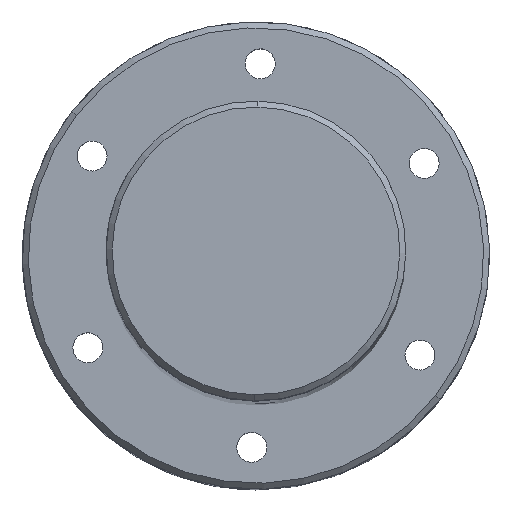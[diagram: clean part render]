
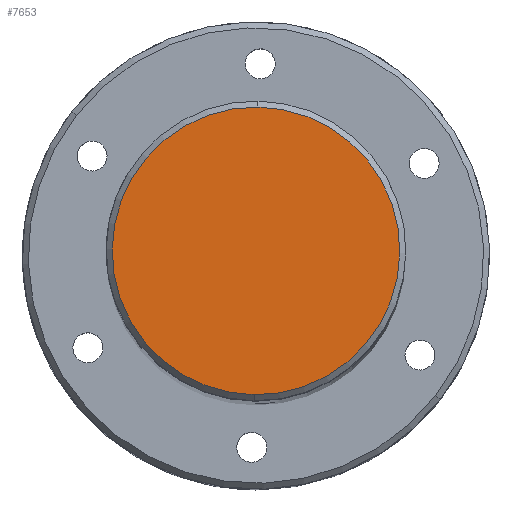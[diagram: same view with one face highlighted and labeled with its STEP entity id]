
A CAD part, top view. The second image highlights one B-rep face of the part: STEP entity #7653.
In plain terms, the highlighted planar face has unit normal (0, 0, 1) as drawn and (-1, 0, 0) by its records, which use the part's own axes.
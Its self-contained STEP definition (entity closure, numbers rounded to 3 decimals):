
#805 = DIRECTION ( 'NONE',  ( 0., 0., -1. ) ) ;
#2730 = VERTEX_POINT ( 'NONE', #13775 ) ;
#3217 = CARTESIAN_POINT ( 'NONE',  ( 0., 0., -24. ) ) ;
#4943 = CARTESIAN_POINT ( 'NONE',  ( 0., 0., 0. ) ) ;
#5156 = CARTESIAN_POINT ( 'NONE',  ( 0., 0., 0. ) ) ;
#5300 = ORIENTED_EDGE ( 'NONE', *, *, #20288, .T. ) ;
#6937 = DIRECTION ( 'NONE',  ( -1., 0., 0. ) ) ;
#7653 = ADVANCED_FACE ( 'NONE', ( #15000 ), #10002, .F. ) ;
#7755 = CARTESIAN_POINT ( 'NONE',  ( 0., 0., 0. ) ) ;
#7966 = AXIS2_PLACEMENT_3D ( 'NONE', #4943, #11933, #10066 ) ;
#9640 = EDGE_CURVE ( 'NONE', #19281, #2730, #11775, .T. ) ;
#10002 = PLANE ( 'NONE',  #7966 ) ;
#10066 = DIRECTION ( 'NONE',  ( 0., 0., -1. ) ) ;
#10853 = ORIENTED_EDGE ( 'NONE', *, *, #9640, .T. ) ;
#11722 = DIRECTION ( 'NONE',  ( 0., 0., -1. ) ) ;
#11775 = CIRCLE ( 'NONE', #15607, 24. ) ;
#11933 = DIRECTION ( 'NONE',  ( 1., 0., 0. ) ) ;
#13523 = EDGE_LOOP ( 'NONE', ( #10853, #5300 ) ) ;
#13775 = CARTESIAN_POINT ( 'NONE',  ( 0., 0., 24. ) ) ;
#15000 = FACE_OUTER_BOUND ( 'NONE', #13523, .T. ) ;
#15607 = AXIS2_PLACEMENT_3D ( 'NONE', #5156, #6937, #11722 ) ;
#17947 = CIRCLE ( 'NONE', #21413, 24. ) ;
#19281 = VERTEX_POINT ( 'NONE', #3217 ) ;
#19568 = DIRECTION ( 'NONE',  ( -1., 0., 0. ) ) ;
#20288 = EDGE_CURVE ( 'NONE', #2730, #19281, #17947, .T. ) ;
#21413 = AXIS2_PLACEMENT_3D ( 'NONE', #7755, #19568, #805 ) ;
